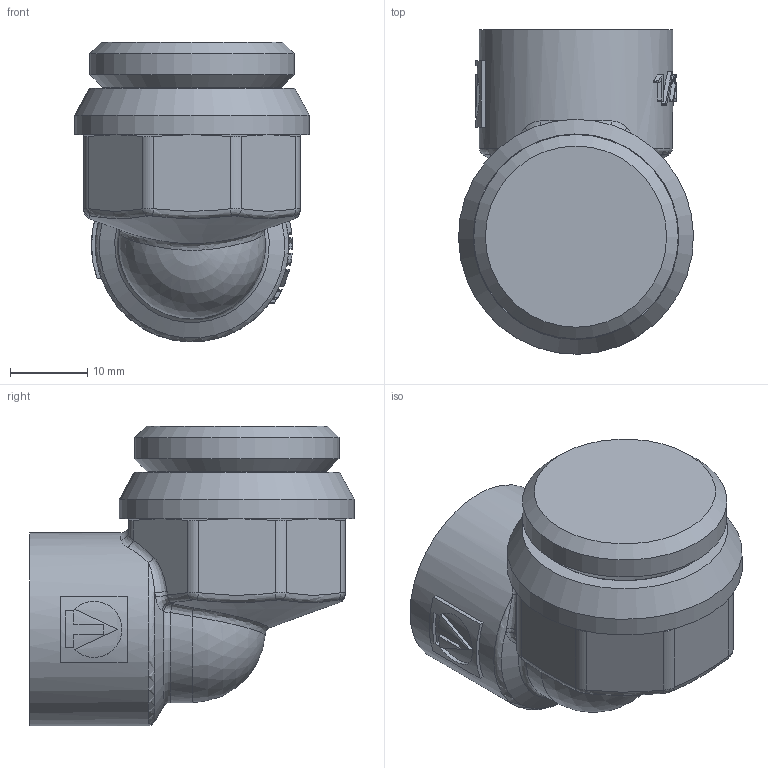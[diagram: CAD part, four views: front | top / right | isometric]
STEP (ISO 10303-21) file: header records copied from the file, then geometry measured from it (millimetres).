
FILE_DESCRIPTION(('STEP AP203'), '1');
FILE_NAME('VTc.531.N.0504', '2024-09-06T11:23:18', ('User'), ('Vesta'), 'C3D Converter', 'C3D Toolkit', '');
FILE_SCHEMA(('CONFIG_CONTROL_DESIGN'));
Length unit declared in the file: millimetre
Products named in the file (1): ВР.302635.119.000 СБ
Bounding box: 30.4 x 42 x 38.8 mm (x, y, z)
Volume: 20867.3 mm3; surface area: 6130.3 mm2
Topology: 1 solids, 1 shells, 263 faces, 704 edges, 453 vertices
Faces by surface type: extrusion 108, plane 82, bspline 30, cylinder 24, cone 14, torus 4, sphere 1
Full cylindrical faces by diameter (mm): 18.632 x1, 25 x1, 26.441 x1, 30.4 x1
Entity records: 15210 total; most frequent: CARTESIAN_POINT 9582, ORIENTED_EDGE 1384, DIRECTION 718, EDGE_CURVE 692, VERTEX_POINT 453, B_SPLINE_CURVE_WITH_KNOTS 432, VECTOR 334, EDGE_LOOP 285
